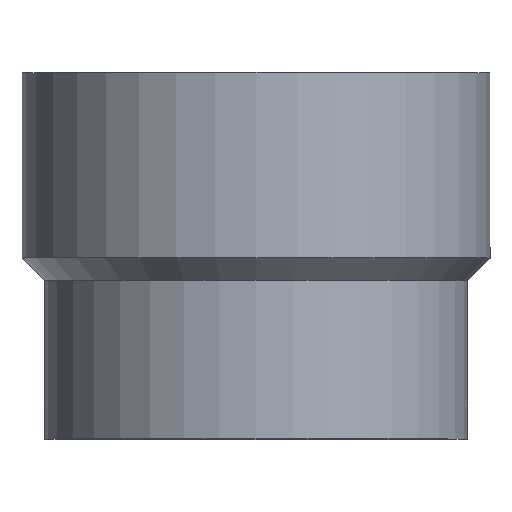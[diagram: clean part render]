
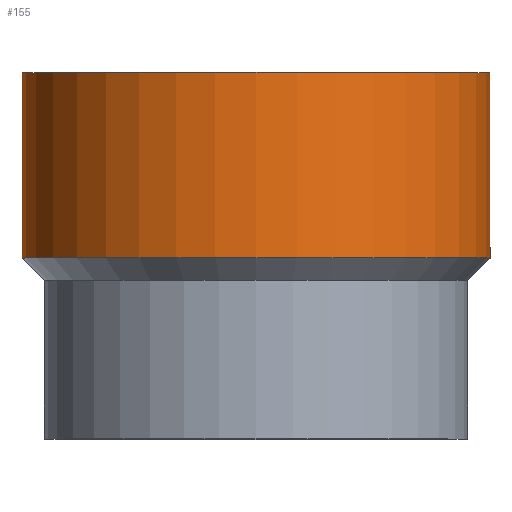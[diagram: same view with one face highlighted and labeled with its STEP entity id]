
A CAD part, top view. The second image highlights one B-rep face of the part: STEP entity #155.
In plain terms, the highlighted cylindrical face has radius 57.5 mm (diameter 115 mm), a full revolution.
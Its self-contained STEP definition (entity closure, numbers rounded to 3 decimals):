
#23=FACE_OUTER_BOUND('',#31,.T.);
#31=EDGE_LOOP('',(#117,#118,#119,#120,#121,#122));
#41=LINE('',#283,#47);
#47=VECTOR('',#231,57.5);
#55=CIRCLE('',#187,57.5);
#56=CIRCLE('',#188,57.5);
#57=CIRCLE('',#190,57.5);
#58=CIRCLE('',#191,57.5);
#71=VERTEX_POINT('',#273);
#72=VERTEX_POINT('',#274);
#73=VERTEX_POINT('',#279);
#74=VERTEX_POINT('',#280);
#88=EDGE_CURVE('',#71,#72,#55,.T.);
#89=EDGE_CURVE('',#72,#71,#56,.T.);
#91=EDGE_CURVE('',#73,#74,#57,.T.);
#92=EDGE_CURVE('',#74,#73,#58,.T.);
#93=EDGE_CURVE('',#74,#72,#41,.T.);
#117=ORIENTED_EDGE('',*,*,#91,.F.);
#118=ORIENTED_EDGE('',*,*,#92,.F.);
#119=ORIENTED_EDGE('',*,*,#93,.T.);
#120=ORIENTED_EDGE('',*,*,#89,.T.);
#121=ORIENTED_EDGE('',*,*,#88,.T.);
#122=ORIENTED_EDGE('',*,*,#93,.F.);
#150=CYLINDRICAL_SURFACE('',#189,57.5);
#155=ADVANCED_FACE('',(#23),#150,.T.);
#187=AXIS2_PLACEMENT_3D('',#275,#220,#221);
#188=AXIS2_PLACEMENT_3D('',#276,#222,#223);
#189=AXIS2_PLACEMENT_3D('',#278,#225,#226);
#190=AXIS2_PLACEMENT_3D('',#281,#227,#228);
#191=AXIS2_PLACEMENT_3D('',#282,#229,#230);
#220=DIRECTION('center_axis',(0.,1.,0.));
#221=DIRECTION('ref_axis',(-1.,0.,0.));
#222=DIRECTION('center_axis',(0.,1.,0.));
#223=DIRECTION('ref_axis',(-1.,0.,0.));
#225=DIRECTION('center_axis',(0.,1.,0.));
#226=DIRECTION('ref_axis',(-1.,0.,0.));
#227=DIRECTION('center_axis',(0.,1.,0.));
#228=DIRECTION('ref_axis',(-1.,0.,0.));
#229=DIRECTION('center_axis',(0.,1.,0.));
#230=DIRECTION('ref_axis',(-1.,0.,0.));
#231=DIRECTION('',(0.,-1.,0.));
#273=CARTESIAN_POINT('',(-57.5,44.5,0.));
#274=CARTESIAN_POINT('',(57.5,44.5,0.));
#275=CARTESIAN_POINT('Origin',(0.,44.5,0.));
#276=CARTESIAN_POINT('Origin',(0.,44.5,0.));
#278=CARTESIAN_POINT('Origin',(0.,67.25,0.));
#279=CARTESIAN_POINT('',(-57.5,90.,0.));
#280=CARTESIAN_POINT('',(57.5,90.,0.));
#281=CARTESIAN_POINT('Origin',(0.,90.,0.));
#282=CARTESIAN_POINT('Origin',(0.,90.,0.));
#283=CARTESIAN_POINT('',(57.5,67.25,0.));
